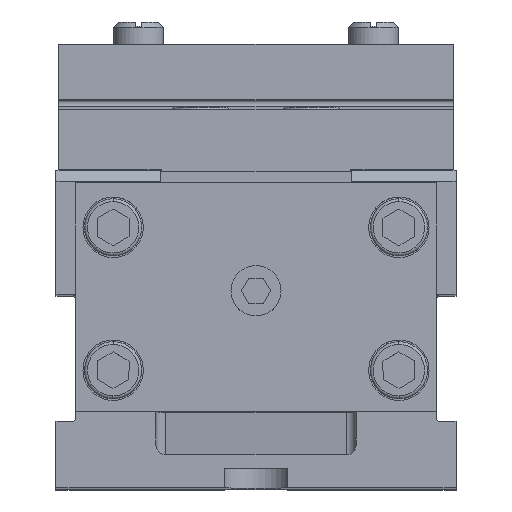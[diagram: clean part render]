
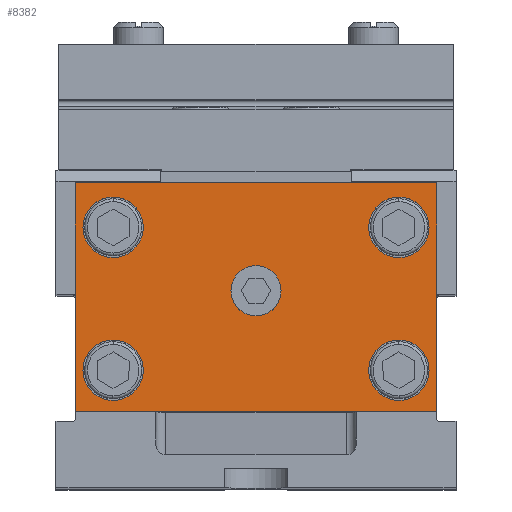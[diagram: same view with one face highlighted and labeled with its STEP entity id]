
A CAD part, top view. The second image highlights one B-rep face of the part: STEP entity #8382.
In plain terms, the highlighted planar face has unit normal (0, 0, 1).
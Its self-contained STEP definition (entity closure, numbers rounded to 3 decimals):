
#7833=DIRECTION('',(1.,0.,0.));
#7834=VECTOR('',#7833,114.);
#7835=CARTESIAN_POINT('',(-57.,-36.,20.));
#7836=LINE('',#7835,#7834);
#7837=DIRECTION('',(0.,-1.,0.));
#7838=VECTOR('',#7837,72.);
#7839=CARTESIAN_POINT('',(-57.,36.,20.));
#7840=LINE('',#7839,#7838);
#7841=DIRECTION('',(-1.,0.,0.));
#7842=VECTOR('',#7841,114.);
#7843=CARTESIAN_POINT('',(57.,36.,20.));
#7844=LINE('',#7843,#7842);
#7845=DIRECTION('',(0.,1.,0.));
#7846=VECTOR('',#7845,72.);
#7847=CARTESIAN_POINT('',(57.,-36.,20.));
#7848=LINE('',#7847,#7846);
#7849=CARTESIAN_POINT('',(0.,2.,20.));
#7850=DIRECTION('',(0.,0.,1.));
#7851=DIRECTION('',(1.,0.,0.));
#7852=AXIS2_PLACEMENT_3D('',#7849,#7850,#7851);
#7854=CARTESIAN_POINT('',(0.,2.,20.));
#7855=DIRECTION('',(0.,0.,1.));
#7856=DIRECTION('',(-1.,0.,0.));
#7857=AXIS2_PLACEMENT_3D('',#7854,#7855,#7856);
#7859=CARTESIAN_POINT('',(-45.,22.,20.));
#7860=DIRECTION('',(0.,0.,1.));
#7861=DIRECTION('',(-1.,0.,0.));
#7862=AXIS2_PLACEMENT_3D('',#7859,#7860,#7861);
#7864=CARTESIAN_POINT('',(-45.,22.,20.));
#7865=DIRECTION('',(0.,0.,1.));
#7866=DIRECTION('',(1.,0.,0.));
#7867=AXIS2_PLACEMENT_3D('',#7864,#7865,#7866);
#7869=CARTESIAN_POINT('',(45.,22.,20.));
#7870=DIRECTION('',(0.,0.,1.));
#7871=DIRECTION('',(-1.,0.,0.));
#7872=AXIS2_PLACEMENT_3D('',#7869,#7870,#7871);
#7874=CARTESIAN_POINT('',(45.,22.,20.));
#7875=DIRECTION('',(0.,0.,1.));
#7876=DIRECTION('',(1.,0.,0.));
#7877=AXIS2_PLACEMENT_3D('',#7874,#7875,#7876);
#7879=CARTESIAN_POINT('',(45.,-23.,20.));
#7880=DIRECTION('',(0.,0.,1.));
#7881=DIRECTION('',(-1.,0.,0.));
#7882=AXIS2_PLACEMENT_3D('',#7879,#7880,#7881);
#7884=CARTESIAN_POINT('',(45.,-23.,20.));
#7885=DIRECTION('',(0.,0.,1.));
#7886=DIRECTION('',(1.,0.,0.));
#7887=AXIS2_PLACEMENT_3D('',#7884,#7885,#7886);
#7889=CARTESIAN_POINT('',(-45.,-23.,20.));
#7890=DIRECTION('',(0.,0.,1.));
#7891=DIRECTION('',(-1.,0.,0.));
#7892=AXIS2_PLACEMENT_3D('',#7889,#7890,#7891);
#7894=CARTESIAN_POINT('',(-45.,-23.,20.));
#7895=DIRECTION('',(0.,0.,1.));
#7896=DIRECTION('',(1.,0.,0.));
#7897=AXIS2_PLACEMENT_3D('',#7894,#7895,#7896);
#8141=CARTESIAN_POINT('',(-57.,-36.,20.));
#8142=CARTESIAN_POINT('',(57.,-36.,20.));
#8143=VERTEX_POINT('',#8141);
#8144=VERTEX_POINT('',#8142);
#8145=CARTESIAN_POINT('',(57.,36.,20.));
#8146=VERTEX_POINT('',#8145);
#8147=CARTESIAN_POINT('',(-57.,36.,20.));
#8148=VERTEX_POINT('',#8147);
#8153=CARTESIAN_POINT('',(7.9,2.,20.));
#8154=CARTESIAN_POINT('',(-7.9,2.,20.));
#8155=VERTEX_POINT('',#8153);
#8156=VERTEX_POINT('',#8154);
#8217=CARTESIAN_POINT('',(-54.5,22.,20.));
#8218=CARTESIAN_POINT('',(-35.5,22.,20.));
#8219=VERTEX_POINT('',#8217);
#8220=VERTEX_POINT('',#8218);
#8225=CARTESIAN_POINT('',(35.5,22.,20.));
#8226=CARTESIAN_POINT('',(54.5,22.,20.));
#8227=VERTEX_POINT('',#8225);
#8228=VERTEX_POINT('',#8226);
#8233=CARTESIAN_POINT('',(35.5,-23.,20.));
#8234=CARTESIAN_POINT('',(54.5,-23.,20.));
#8235=VERTEX_POINT('',#8233);
#8236=VERTEX_POINT('',#8234);
#8241=CARTESIAN_POINT('',(-54.5,-23.,20.));
#8242=CARTESIAN_POINT('',(-35.5,-23.,20.));
#8243=VERTEX_POINT('',#8241);
#8244=VERTEX_POINT('',#8242);
#8341=CARTESIAN_POINT('',(0.,0.,20.));
#8342=DIRECTION('',(0.,0.,1.));
#8343=DIRECTION('',(1.,0.,0.));
#8344=AXIS2_PLACEMENT_3D('',#8341,#8342,#8343);
#8345=PLANE('',#8344);
#8346=ORIENTED_EDGE('',*,*,#8293,.F.);
#8347=ORIENTED_EDGE('',*,*,#8308,.F.);
#8348=ORIENTED_EDGE('',*,*,#8322,.F.);
#8349=ORIENTED_EDGE('',*,*,#8335,.F.);
#8350=EDGE_LOOP('',(#8346,#8347,#8348,#8349));
#8351=FACE_OUTER_BOUND('',#8350,.F.);
#8353=ORIENTED_EDGE('',*,*,#8352,.T.);
#8355=ORIENTED_EDGE('',*,*,#8354,.T.);
#8356=EDGE_LOOP('',(#8353,#8355));
#8357=FACE_BOUND('',#8356,.F.);
#8359=ORIENTED_EDGE('',*,*,#8358,.T.);
#8361=ORIENTED_EDGE('',*,*,#8360,.T.);
#8362=EDGE_LOOP('',(#8359,#8361));
#8363=FACE_BOUND('',#8362,.F.);
#8365=ORIENTED_EDGE('',*,*,#8364,.T.);
#8367=ORIENTED_EDGE('',*,*,#8366,.T.);
#8368=EDGE_LOOP('',(#8365,#8367));
#8369=FACE_BOUND('',#8368,.F.);
#8371=ORIENTED_EDGE('',*,*,#8370,.T.);
#8373=ORIENTED_EDGE('',*,*,#8372,.T.);
#8374=EDGE_LOOP('',(#8371,#8373));
#8375=FACE_BOUND('',#8374,.F.);
#8377=ORIENTED_EDGE('',*,*,#8376,.T.);
#8379=ORIENTED_EDGE('',*,*,#8378,.T.);
#8380=EDGE_LOOP('',(#8377,#8379));
#8381=FACE_BOUND('',#8380,.F.);
#8382=ADVANCED_FACE('',(#8351,#8357,#8363,#8369,#8375,#8381),#8345,.T.);
#7853=CIRCLE('',#7852,7.9);
#7858=CIRCLE('',#7857,7.9);
#7863=CIRCLE('',#7862,9.5);
#7868=CIRCLE('',#7867,9.5);
#7873=CIRCLE('',#7872,9.5);
#7878=CIRCLE('',#7877,9.5);
#7883=CIRCLE('',#7882,9.5);
#7888=CIRCLE('',#7887,9.5);
#7893=CIRCLE('',#7892,9.5);
#7898=CIRCLE('',#7897,9.5);
#8293=EDGE_CURVE('',#8143,#8144,#7836,.T.);
#8308=EDGE_CURVE('',#8148,#8143,#7840,.T.);
#8322=EDGE_CURVE('',#8146,#8148,#7844,.T.);
#8335=EDGE_CURVE('',#8144,#8146,#7848,.T.);
#8352=EDGE_CURVE('',#8155,#8156,#7853,.T.);
#8354=EDGE_CURVE('',#8156,#8155,#7858,.T.);
#8358=EDGE_CURVE('',#8219,#8220,#7863,.T.);
#8360=EDGE_CURVE('',#8220,#8219,#7868,.T.);
#8364=EDGE_CURVE('',#8227,#8228,#7873,.T.);
#8366=EDGE_CURVE('',#8228,#8227,#7878,.T.);
#8370=EDGE_CURVE('',#8235,#8236,#7883,.T.);
#8372=EDGE_CURVE('',#8236,#8235,#7888,.T.);
#8376=EDGE_CURVE('',#8243,#8244,#7893,.T.);
#8378=EDGE_CURVE('',#8244,#8243,#7898,.T.);
